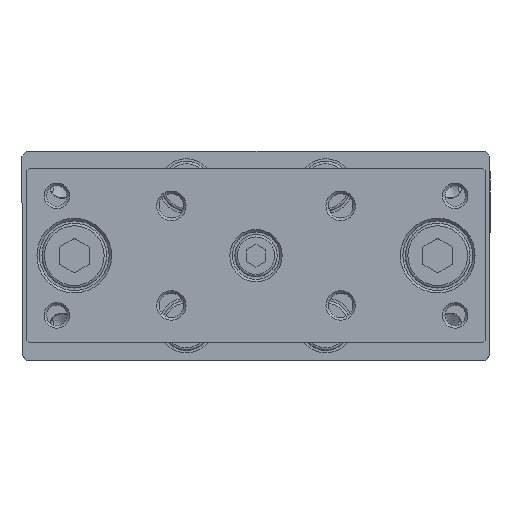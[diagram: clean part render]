
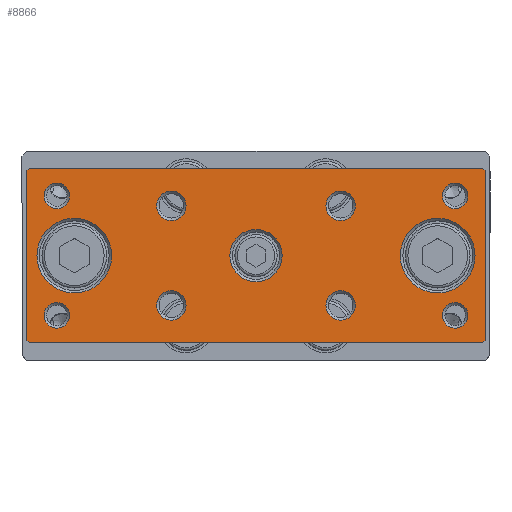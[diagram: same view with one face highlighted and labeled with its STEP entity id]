
A CAD part, top view. The second image highlights one B-rep face of the part: STEP entity #8866.
In plain terms, the highlighted planar face has unit normal (0, 0, 1).
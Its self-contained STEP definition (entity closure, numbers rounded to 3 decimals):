
#7566=CARTESIAN_POINT('',(42.976,19.784,158.2));
#7567=VERTEX_POINT('',#7566);
#7568=CARTESIAN_POINT('',(43.476,19.284,158.2));
#7569=VERTEX_POINT('',#7568);
#7570=CARTESIAN_POINT('',(42.976,19.784,158.2));
#7571=DIRECTION('',(0.707,-0.707,0.0));
#7572=VECTOR('',#7571,0.707);
#7573=LINE('',#7570,#7572);
#7574=EDGE_CURVE('',#7567,#7569,#7573,.T.);
#7708=CARTESIAN_POINT('',(-48.024,19.784,158.2));
#7709=VERTEX_POINT('',#7708);
#7718=CARTESIAN_POINT('',(42.976,19.784,158.2));
#7719=DIRECTION('',(-1.0,0.0,0.0));
#7720=VECTOR('',#7719,91.);
#7721=LINE('',#7718,#7720);
#7722=EDGE_CURVE('',#7567,#7709,#7721,.T.);
#7767=CARTESIAN_POINT('',(43.476,-14.716,158.2));
#7768=VERTEX_POINT('',#7767);
#7782=CARTESIAN_POINT('',(43.476,-14.716,158.2));
#7783=DIRECTION('',(0.0,1.0,0.0));
#7784=VECTOR('',#7783,34.0);
#7785=LINE('',#7782,#7784);
#7786=EDGE_CURVE('',#7768,#7569,#7785,.T.);
#7805=CARTESIAN_POINT('',(42.976,-15.216,158.2));
#7806=VERTEX_POINT('',#7805);
#7807=CARTESIAN_POINT('',(43.476,-14.716,158.2));
#7808=DIRECTION('',(-0.707,-0.707,0.0));
#7809=VECTOR('',#7808,0.707);
#7810=LINE('',#7807,#7809);
#7811=EDGE_CURVE('',#7768,#7806,#7810,.T.);
#7827=CARTESIAN_POINT('',(-48.024,-15.216,158.2));
#7828=VERTEX_POINT('',#7827);
#7829=CARTESIAN_POINT('',(-48.524,-14.716,158.2));
#7830=VERTEX_POINT('',#7829);
#7831=CARTESIAN_POINT('',(-48.024,-15.216,158.2));
#7832=DIRECTION('',(-0.707,0.707,0.0));
#7833=VECTOR('',#7832,0.707);
#7834=LINE('',#7831,#7833);
#7835=EDGE_CURVE('',#7828,#7830,#7834,.T.);
#7935=CARTESIAN_POINT('',(-48.024,-15.216,158.2));
#7936=DIRECTION('',(1.0,0.0,0.0));
#7937=VECTOR('',#7936,91.);
#7938=LINE('',#7935,#7937);
#7939=EDGE_CURVE('',#7828,#7806,#7938,.T.);
#8123=CARTESIAN_POINT('',(-48.524,19.284,158.2));
#8124=VERTEX_POINT('',#8123);
#8133=CARTESIAN_POINT('',(-48.524,19.284,158.2));
#8134=DIRECTION('',(0.0,-1.0,0.0));
#8135=VECTOR('',#8134,34.0);
#8136=LINE('',#8133,#8135);
#8137=EDGE_CURVE('',#8124,#7830,#8136,.T.);
#8149=CARTESIAN_POINT('',(-48.524,19.284,158.2));
#8150=DIRECTION('',(0.707,0.707,0.0));
#8151=VECTOR('',#8150,0.707);
#8152=LINE('',#8149,#8151);
#8153=EDGE_CURVE('',#8124,#7709,#8152,.T.);
#8208=CARTESIAN_POINT('',(2.726,2.284,158.2));
#8209=VERTEX_POINT('',#8208);
#8210=CARTESIAN_POINT('',(-2.524,2.284,158.2));
#8211=DIRECTION('',(0.0,0.0,1.0));
#8212=DIRECTION('',(-1.0,0.0,0.0));
#8213=AXIS2_PLACEMENT_3D('',#8210,#8211,#8212);
#8214=CIRCLE('',#8213,5.25);
#8215=EDGE_CURVE('',#8209,#8209,#8214,.T.);
#8269=CARTESIAN_POINT('',(-39.957,14.284,158.2));
#8270=VERTEX_POINT('',#8269);
#8271=CARTESIAN_POINT('',(-42.524,14.284,158.2));
#8272=DIRECTION('',(0.0,0.0,1.0));
#8273=DIRECTION('',(-1.0,0.0,0.0));
#8274=AXIS2_PLACEMENT_3D('',#8271,#8272,#8273);
#8275=CIRCLE('',#8274,2.567);
#8276=EDGE_CURVE('',#8270,#8270,#8275,.T.);
#8330=CARTESIAN_POINT('',(41.476,2.284,158.2));
#8331=VERTEX_POINT('',#8330);
#8332=CARTESIAN_POINT('',(33.976,2.284,158.2));
#8333=DIRECTION('',(0.0,0.0,1.0));
#8334=DIRECTION('',(-1.0,0.0,0.0));
#8335=AXIS2_PLACEMENT_3D('',#8332,#8333,#8334);
#8336=CIRCLE('',#8335,7.5);
#8337=EDGE_CURVE('',#8331,#8331,#8336,.T.);
#8391=CARTESIAN_POINT('',(-39.957,-9.716,158.2));
#8392=VERTEX_POINT('',#8391);
#8393=CARTESIAN_POINT('',(-42.524,-9.716,158.2));
#8394=DIRECTION('',(0.0,0.0,1.0));
#8395=DIRECTION('',(-1.0,0.0,0.0));
#8396=AXIS2_PLACEMENT_3D('',#8393,#8394,#8395);
#8397=CIRCLE('',#8396,2.567);
#8398=EDGE_CURVE('',#8392,#8392,#8397,.T.);
#8452=CARTESIAN_POINT('',(-31.524,2.284,158.2));
#8453=VERTEX_POINT('',#8452);
#8454=CARTESIAN_POINT('',(-39.024,2.284,158.2));
#8455=DIRECTION('',(0.0,0.0,1.0));
#8456=DIRECTION('',(-1.0,0.0,0.0));
#8457=AXIS2_PLACEMENT_3D('',#8454,#8455,#8456);
#8458=CIRCLE('',#8457,7.5);
#8459=EDGE_CURVE('',#8453,#8453,#8458,.T.);
#8513=CARTESIAN_POINT('',(40.043,-9.716,158.2));
#8514=VERTEX_POINT('',#8513);
#8515=CARTESIAN_POINT('',(37.476,-9.716,158.2));
#8516=DIRECTION('',(0.0,0.0,1.0));
#8517=DIRECTION('',(-1.0,0.0,0.0));
#8518=AXIS2_PLACEMENT_3D('',#8515,#8516,#8517);
#8519=CIRCLE('',#8518,2.567);
#8520=EDGE_CURVE('',#8514,#8514,#8519,.T.);
#8574=CARTESIAN_POINT('',(17.434,-7.716,158.2));
#8575=VERTEX_POINT('',#8574);
#8576=CARTESIAN_POINT('',(14.476,-7.716,158.2));
#8577=DIRECTION('',(0.0,0.0,1.0));
#8578=DIRECTION('',(-1.0,0.0,0.0));
#8579=AXIS2_PLACEMENT_3D('',#8576,#8577,#8578);
#8580=CIRCLE('',#8579,2.959);
#8581=EDGE_CURVE('',#8575,#8575,#8580,.T.);
#8635=CARTESIAN_POINT('',(40.043,14.284,158.2));
#8636=VERTEX_POINT('',#8635);
#8637=CARTESIAN_POINT('',(37.476,14.284,158.2));
#8638=DIRECTION('',(0.0,0.0,1.0));
#8639=DIRECTION('',(-1.0,0.0,0.0));
#8640=AXIS2_PLACEMENT_3D('',#8637,#8638,#8639);
#8641=CIRCLE('',#8640,2.567);
#8642=EDGE_CURVE('',#8636,#8636,#8641,.T.);
#8696=CARTESIAN_POINT('',(-16.566,-7.716,158.2));
#8697=VERTEX_POINT('',#8696);
#8698=CARTESIAN_POINT('',(-19.524,-7.716,158.2));
#8699=DIRECTION('',(0.0,0.0,1.0));
#8700=DIRECTION('',(-1.0,0.0,0.0));
#8701=AXIS2_PLACEMENT_3D('',#8698,#8699,#8700);
#8702=CIRCLE('',#8701,2.958);
#8703=EDGE_CURVE('',#8697,#8697,#8702,.T.);
#8757=CARTESIAN_POINT('',(-16.566,12.284,158.2));
#8758=VERTEX_POINT('',#8757);
#8759=CARTESIAN_POINT('',(-19.524,12.284,158.2));
#8760=DIRECTION('',(0.0,0.0,1.0));
#8761=DIRECTION('',(-1.0,0.0,0.0));
#8762=AXIS2_PLACEMENT_3D('',#8759,#8760,#8761);
#8763=CIRCLE('',#8762,2.958);
#8764=EDGE_CURVE('',#8758,#8758,#8763,.T.);
#8810=CARTESIAN_POINT('',(-48.524,2.284,158.2));
#8811=DIRECTION('',(0.0,0.0,1.0));
#8812=DIRECTION('',(1.0,0.0,0.0));
#8813=AXIS2_PLACEMENT_3D('',#8810,#8811,#8812);
#8814=PLANE('',#8813);
#8815=ORIENTED_EDGE('',*,*,#8153,.F.);
#8816=ORIENTED_EDGE('',*,*,#8137,.T.);
#8817=ORIENTED_EDGE('',*,*,#7835,.F.);
#8818=ORIENTED_EDGE('',*,*,#7939,.T.);
#8819=ORIENTED_EDGE('',*,*,#7811,.F.);
#8820=ORIENTED_EDGE('',*,*,#7786,.T.);
#8821=ORIENTED_EDGE('',*,*,#7574,.F.);
#8822=ORIENTED_EDGE('',*,*,#7722,.T.);
#8823=EDGE_LOOP('',(#8815,#8816,#8817,#8818,#8819,#8820,#8821,#8822));
#8824=FACE_OUTER_BOUND('',#8823,.T.);
#8825=ORIENTED_EDGE('',*,*,#8764,.F.);
#8826=EDGE_LOOP('',(#8825));
#8827=FACE_BOUND('',#8826,.T.);
#8828=ORIENTED_EDGE('',*,*,#8642,.F.);
#8829=EDGE_LOOP('',(#8828));
#8830=FACE_BOUND('',#8829,.T.);
#8831=ORIENTED_EDGE('',*,*,#8520,.F.);
#8832=EDGE_LOOP('',(#8831));
#8833=FACE_BOUND('',#8832,.T.);
#8834=ORIENTED_EDGE('',*,*,#8398,.F.);
#8835=EDGE_LOOP('',(#8834));
#8836=FACE_BOUND('',#8835,.T.);
#8837=ORIENTED_EDGE('',*,*,#8276,.F.);
#8838=EDGE_LOOP('',(#8837));
#8839=FACE_BOUND('',#8838,.T.);
#8840=ORIENTED_EDGE('',*,*,#8215,.F.);
#8841=EDGE_LOOP('',(#8840));
#8842=FACE_BOUND('',#8841,.T.);
#8843=ORIENTED_EDGE('',*,*,#8337,.F.);
#8844=EDGE_LOOP('',(#8843));
#8845=FACE_BOUND('',#8844,.T.);
#8846=ORIENTED_EDGE('',*,*,#8459,.F.);
#8847=EDGE_LOOP('',(#8846));
#8848=FACE_BOUND('',#8847,.T.);
#8849=ORIENTED_EDGE('',*,*,#8581,.F.);
#8850=EDGE_LOOP('',(#8849));
#8851=FACE_BOUND('',#8850,.T.);
#8852=ORIENTED_EDGE('',*,*,#8703,.F.);
#8853=EDGE_LOOP('',(#8852));
#8854=FACE_BOUND('',#8853,.T.);
#8855=CARTESIAN_POINT('',(17.434,12.284,158.2));
#8856=VERTEX_POINT('',#8855);
#8857=CARTESIAN_POINT('',(14.476,12.284,158.2));
#8858=DIRECTION('',(0.0,0.0,1.0));
#8859=DIRECTION('',(-1.0,0.0,0.0));
#8860=AXIS2_PLACEMENT_3D('',#8857,#8858,#8859);
#8861=CIRCLE('',#8860,2.959);
#8862=EDGE_CURVE('',#8856,#8856,#8861,.T.);
#8863=ORIENTED_EDGE('',*,*,#8862,.F.);
#8864=EDGE_LOOP('',(#8863));
#8865=FACE_BOUND('',#8864,.T.);
#8866=ADVANCED_FACE('',(#8824,#8827,#8830,#8833,#8836,#8839,#8842,#8845,#8848,#8851,#8854,#8865),#8814,.T.);
